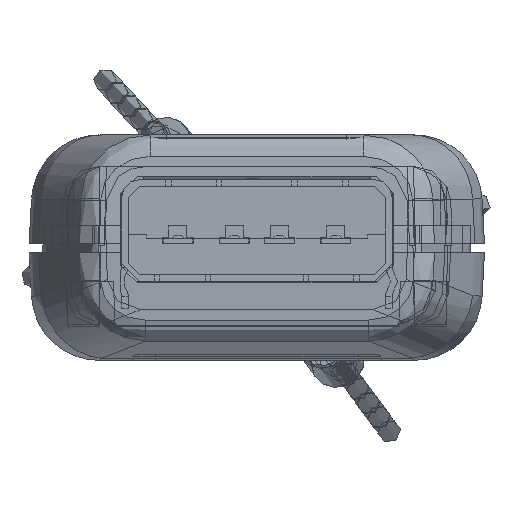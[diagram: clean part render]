
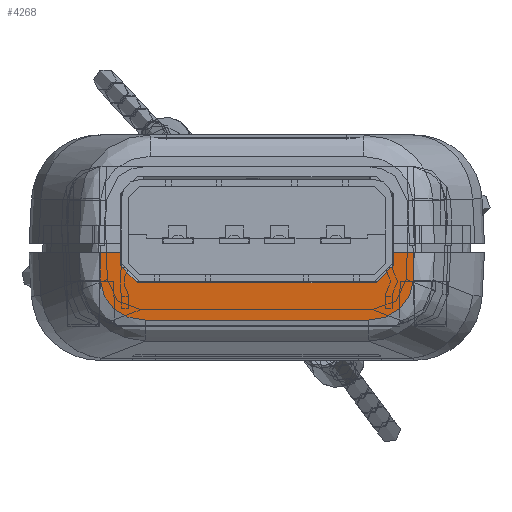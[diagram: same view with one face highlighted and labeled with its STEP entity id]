
A CAD part, left-side view. The second image highlights one B-rep face of the part: STEP entity #4268.
In plain terms, the highlighted planar face has unit normal (-0.999, 0, -0.052).
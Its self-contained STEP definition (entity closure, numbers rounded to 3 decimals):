
#402 = EDGE_CURVE ( 'NONE', #5954, #6063, #16287, .T. ) ;
#1075 = LINE ( 'NONE', #21741, #16737 ) ;
#1092 = DIRECTION ( 'NONE',  ( 0., 1., 0. ) ) ;
#1113 = ORIENTED_EDGE ( 'NONE', *, *, #29470, .F. ) ;
#1825 = LINE ( 'NONE', #19764, #10257 ) ;
#2950 = VERTEX_POINT ( 'NONE', #22722 ) ;
#3574 = CARTESIAN_POINT ( 'NONE',  ( -108.017, 5.773, -1.581 ) ) ;
#4268 = ADVANCED_FACE ( 'NONE', ( #14768 ), #12022, .T. ) ;
#4483 = CARTESIAN_POINT ( 'NONE',  ( -107.93, 17.185, -3.247 ) ) ;
#4534 = DIRECTION ( 'NONE',  ( 0.052, -0.032, -0.998 ) ) ;
#4727 = EDGE_CURVE ( 'NONE', #12860, #19241, #31806, .T. ) ;
#4847 = VECTOR ( 'NONE', #14935, 1000. ) ;
#5552 = CARTESIAN_POINT ( 'NONE',  ( -108.023, 18.016, -1.468 ) ) ;
#5799 = CARTESIAN_POINT ( 'NONE',  ( -108.088, 3.473, -0.231 ) ) ;
#5954 = VERTEX_POINT ( 'NONE', #10360 ) ;
#6063 = VERTEX_POINT ( 'NONE', #7631 ) ;
#6161 =( BOUNDED_CURVE ( )  B_SPLINE_CURVE ( 3, ( #34920, #8355, #10709, #25745 ),
 .UNSPECIFIED., .F., .F. ) 
 B_SPLINE_CURVE_WITH_KNOTS ( ( 4, 4 ),
 ( 3.142, 4.712 ),
 .UNSPECIFIED. ) 
 CURVE ( )  GEOMETRIC_REPRESENTATION_ITEM ( )  RATIONAL_B_SPLINE_CURVE ( ( 1., 0.805, 0.805, 1. ) ) 
 REPRESENTATION_ITEM ( '' )  );
#6509 = EDGE_CURVE ( 'NONE', #30608, #7835, #23910, .T. ) ;
#7511 = EDGE_CURVE ( 'NONE', #19241, #13138, #1075, .T. ) ;
#7631 = CARTESIAN_POINT ( 'NONE',  ( -108.088, 18.056, -0.231 ) ) ;
#7670 = CARTESIAN_POINT ( 'NONE',  ( -108.023, 4.13, -1.468 ) ) ;
#7835 = VERTEX_POINT ( 'NONE', #3574 ) ;
#8355 = CARTESIAN_POINT ( 'NONE',  ( -108.017, 16.812, -1.581 ) ) ;
#8517 = VERTEX_POINT ( 'NONE', #36071 ) ;
#8524 = DIRECTION ( 'NONE',  ( 0.052, 0., -0.999 ) ) ;
#8710 = CARTESIAN_POINT ( 'NONE',  ( -107.93, 16.021, -3.247 ) ) ;
#9036 = EDGE_CURVE ( 'NONE', #13138, #31370, #14622, .T. ) ;
#9458 = CARTESIAN_POINT ( 'NONE',  ( -108.017, 3.473, -1.581 ) ) ;
#10001 = LINE ( 'NONE', #16058, #14039 ) ;
#10257 = VECTOR ( 'NONE', #15351, 1000. ) ;
#10338 = VECTOR ( 'NONE', #1092, 1000. ) ;
#10360 = CARTESIAN_POINT ( 'NONE',  ( -108.088, 17.123, -0.231 ) ) ;
#10709 = CARTESIAN_POINT ( 'NONE',  ( -108.034, 17.123, -1.27 ) ) ;
#10988 = CARTESIAN_POINT ( 'NONE',  ( -108.017, 5.773, -1.581 ) ) ;
#12022 = PLANE ( 'NONE',  #31351 ) ;
#12860 = VERTEX_POINT ( 'NONE', #36627 ) ;
#13138 = VERTEX_POINT ( 'NONE', #13262 ) ;
#13262 = CARTESIAN_POINT ( 'NONE',  ( -108.088, 4.09, -0.231 ) ) ;
#13265 = EDGE_CURVE ( 'NONE', #30608, #2950, #6161, .T. ) ;
#13282 = ORIENTED_EDGE ( 'NONE', *, *, #19166, .F. ) ;
#13329 = CARTESIAN_POINT ( 'NONE',  ( -107.93, 4.961, -3.247 ) ) ;
#13515 = CARTESIAN_POINT ( 'NONE',  ( -107.967, 4.165, -2.538 ) ) ;
#13978 = EDGE_CURVE ( 'NONE', #38314, #25202, #27382, .T. ) ;
#14039 = VECTOR ( 'NONE', #4534, 1000. ) ;
#14622 = LINE ( 'NONE', #20691, #31082 ) ;
#14768 = FACE_OUTER_BOUND ( 'NONE', #19278, .T. ) ;
#14935 = DIRECTION ( 'NONE',  ( 0., -1., 0. ) ) ;
#15351 = DIRECTION ( 'NONE',  ( 0.052, 0., -0.999 ) ) ;
#15510 = EDGE_CURVE ( 'NONE', #8517, #7835, #37128, .T. ) ;
#16058 = CARTESIAN_POINT ( 'NONE',  ( -108.064, 18.04, -0.701 ) ) ;
#16287 = LINE ( 'NONE', #25080, #10338 ) ;
#16667 = CARTESIAN_POINT ( 'NONE',  ( -108.017, 5.334, -1.581 ) ) ;
#16737 = VECTOR ( 'NONE', #33469, 1000. ) ;
#16855 = CARTESIAN_POINT ( 'NONE',  ( -108.034, 5.023, -1.27 ) ) ;
#16923 = EDGE_CURVE ( 'NONE', #6063, #38314, #10001, .T. ) ;
#17302 = CARTESIAN_POINT ( 'NONE',  ( -108.017, 16.373, -1.581 ) ) ;
#17399 = CARTESIAN_POINT ( 'NONE',  ( -108.023, 4.13, -1.468 ) ) ;
#19166 = EDGE_CURVE ( 'NONE', #5954, #2950, #1825, .T. ) ;
#19241 = VERTEX_POINT ( 'NONE', #17399 ) ;
#19278 = EDGE_LOOP ( 'NONE', ( #26814, #31785, #1113, #38154, #38470, #20117, #13282, #33198, #25011, #22223, #26602, #19288 ) ) ;
#19288 = ORIENTED_EDGE ( 'NONE', *, *, #4727, .T. ) ;
#19328 = CARTESIAN_POINT ( 'NONE',  ( -107.967, 17.981, -2.538 ) ) ;
#19627 = VECTOR ( 'NONE', #35211, 1000. ) ;
#19694 = CARTESIAN_POINT ( 'NONE',  ( -107.93, 16.021, -3.247 ) ) ;
#19764 = CARTESIAN_POINT ( 'NONE',  ( -108.088, 17.123, -0.231 ) ) ;
#20117 = ORIENTED_EDGE ( 'NONE', *, *, #13265, .T. ) ;
#20185 = DIRECTION ( 'NONE',  ( 0., -1., 0. ) ) ;
#20691 = CARTESIAN_POINT ( 'NONE',  ( -108.088, 3.473, -0.231 ) ) ;
#21741 = CARTESIAN_POINT ( 'NONE',  ( -108.089, 4.089, -0.211 ) ) ;
#22223 = ORIENTED_EDGE ( 'NONE', *, *, #13978, .T. ) ;
#22722 = CARTESIAN_POINT ( 'NONE',  ( -108.057, 17.123, -0.831 ) ) ;
#23910 = LINE ( 'NONE', #9458, #4847 ) ;
#25011 = ORIENTED_EDGE ( 'NONE', *, *, #16923, .T. ) ;
#25080 = CARTESIAN_POINT ( 'NONE',  ( -108.088, 3.473, -0.231 ) ) ;
#25202 = VERTEX_POINT ( 'NONE', #8710 ) ;
#25717 = CARTESIAN_POINT ( 'NONE',  ( -108.088, 5.023, -0.231 ) ) ;
#25745 = CARTESIAN_POINT ( 'NONE',  ( -108.057, 17.123, -0.831 ) ) ;
#26602 = ORIENTED_EDGE ( 'NONE', *, *, #29405, .T. ) ;
#26814 = ORIENTED_EDGE ( 'NONE', *, *, #7511, .T. ) ;
#27382 =( BOUNDED_CURVE ( )  B_SPLINE_CURVE ( 3, ( #31228, #19328, #4483, #19694 ),
 .UNSPECIFIED., .F., .F. ) 
 B_SPLINE_CURVE_WITH_KNOTS ( ( 4, 4 ),
 ( 2.762, 4.197 ),
 .UNSPECIFIED. ) 
 CURVE ( )  GEOMETRIC_REPRESENTATION_ITEM ( )  RATIONAL_B_SPLINE_CURVE ( ( 1., 0.836, 0.836, 1. ) ) 
 REPRESENTATION_ITEM ( '' )  );
#28352 = VECTOR ( 'NONE', #20185, 1000. ) ;
#29405 = EDGE_CURVE ( 'NONE', #25202, #12860, #32090, .T. ) ;
#29470 = EDGE_CURVE ( 'NONE', #8517, #31370, #38129, .T. ) ;
#30608 = VERTEX_POINT ( 'NONE', #17302 ) ;
#31082 = VECTOR ( 'NONE', #32796, 1000. ) ;
#31228 = CARTESIAN_POINT ( 'NONE',  ( -108.023, 18.016, -1.468 ) ) ;
#31308 = CARTESIAN_POINT ( 'NONE',  ( -107.93, 6.125, -3.247 ) ) ;
#31351 = AXIS2_PLACEMENT_3D ( 'NONE', #5799, #38182, #8524 ) ;
#31370 = VERTEX_POINT ( 'NONE', #25717 ) ;
#31785 = ORIENTED_EDGE ( 'NONE', *, *, #9036, .T. ) ;
#31806 =( BOUNDED_CURVE ( )  B_SPLINE_CURVE ( 3, ( #31308, #13329, #13515, #7670 ),
 .UNSPECIFIED., .F., .F. ) 
 B_SPLINE_CURVE_WITH_KNOTS ( ( 4, 4 ),
 ( 5.227, 6.663 ),
 .UNSPECIFIED. ) 
 CURVE ( )  GEOMETRIC_REPRESENTATION_ITEM ( )  RATIONAL_B_SPLINE_CURVE ( ( 1., 0.836, 0.836, 1. ) ) 
 REPRESENTATION_ITEM ( '' )  );
#32090 = LINE ( 'NONE', #34840, #28352 ) ;
#32796 = DIRECTION ( 'NONE',  ( 0., 1., 0. ) ) ;
#33198 = ORIENTED_EDGE ( 'NONE', *, *, #402, .T. ) ;
#33469 = DIRECTION ( 'NONE',  ( -0.052, -0.032, 0.998 ) ) ;
#34079 = CARTESIAN_POINT ( 'NONE',  ( -108.057, 5.023, -0.831 ) ) ;
#34840 = CARTESIAN_POINT ( 'NONE',  ( -107.93, 6.502, -3.247 ) ) ;
#34920 = CARTESIAN_POINT ( 'NONE',  ( -108.017, 16.373, -1.581 ) ) ;
#35211 = DIRECTION ( 'NONE',  ( -0.052, 0., 0.999 ) ) ;
#36071 = CARTESIAN_POINT ( 'NONE',  ( -108.057, 5.023, -0.831 ) ) ;
#36627 = CARTESIAN_POINT ( 'NONE',  ( -107.93, 6.125, -3.247 ) ) ;
#37128 =( BOUNDED_CURVE ( )  B_SPLINE_CURVE ( 3, ( #34079, #16855, #16667, #10988 ),
 .UNSPECIFIED., .F., .F. ) 
 B_SPLINE_CURVE_WITH_KNOTS ( ( 4, 4 ),
 ( 1.571, 3.142 ),
 .UNSPECIFIED. ) 
 CURVE ( )  GEOMETRIC_REPRESENTATION_ITEM ( )  RATIONAL_B_SPLINE_CURVE ( ( 1., 0.805, 0.805, 1. ) ) 
 REPRESENTATION_ITEM ( '' )  );
#37753 = CARTESIAN_POINT ( 'NONE',  ( -108.088, 5.023, -0.231 ) ) ;
#38129 = LINE ( 'NONE', #37753, #19627 ) ;
#38154 = ORIENTED_EDGE ( 'NONE', *, *, #15510, .T. ) ;
#38182 = DIRECTION ( 'NONE',  ( -0.999, 0., -0.052 ) ) ;
#38314 = VERTEX_POINT ( 'NONE', #5552 ) ;
#38470 = ORIENTED_EDGE ( 'NONE', *, *, #6509, .F. ) ;
